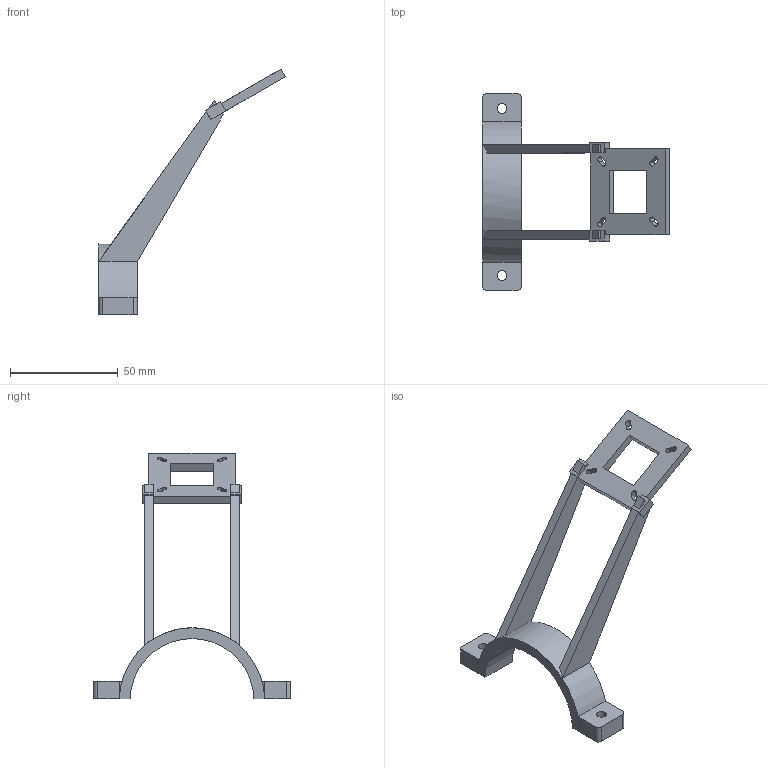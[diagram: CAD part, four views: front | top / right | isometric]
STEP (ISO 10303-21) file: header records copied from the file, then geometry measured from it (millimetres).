
FILE_DESCRIPTION(('Open CASCADE Model'),'2;1');
FILE_NAME('Open CASCADE Shape Model','2026-09-19T10:08:23',('Author'),( 'Open CASCADE'),'Open CASCADE STEP processor 7.9','Open CASCADE 7.9' ,'Unknown');
FILE_SCHEMA(('AUTOMOTIVE_DESIGN { 1 0 10303 214 1 1 1 1 }'));
Length unit declared in the file: millimetre
Products named in the file (1): Open CASCADE STEP translator 7.9 1
Bounding box: 86.82 x 91.6 x 114.25 mm (x, y, z)
Volume: 24140.6 mm3; surface area: 14402 mm2
Topology: 1 solids, 1 shells, 74 faces, 222 edges, 148 vertices
Faces by surface type: plane 54, cylinder 20
Full cylindrical faces by diameter (mm): 4.5 x2
Entity records: 5654 total; most frequent: CARTESIAN_POINT 1353, DIRECTION 760, LINE 506, VECTOR 506, ORIENTED_EDGE 444, PCURVE 444, DEFINITIONAL_REPRESENTATION 444, EDGE_CURVE 222
